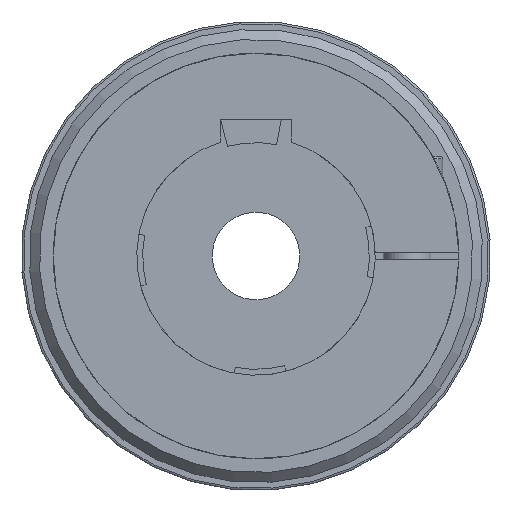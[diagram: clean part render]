
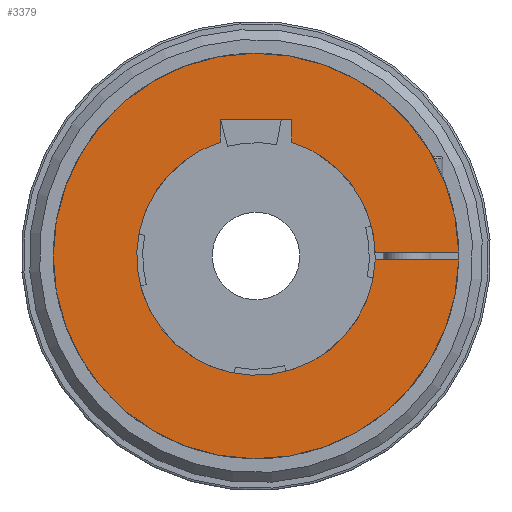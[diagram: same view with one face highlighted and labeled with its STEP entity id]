
A CAD part, left-side view. The second image highlights one B-rep face of the part: STEP entity #3379.
In plain terms, the highlighted planar face has unit normal (-1, 0, 0).
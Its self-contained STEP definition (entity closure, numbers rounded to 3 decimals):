
#189=PLANE('',#3782);
#377=FACE_OUTER_BOUND('',#584,.T.);
#584=EDGE_LOOP('',(#3089,#3090,#3091,#3092,#3093,#3094,#3095,#3096));
#840=LINE('',#5854,#1131);
#843=LINE('',#5860,#1134);
#846=LINE('',#5864,#1137);
#870=LINE('',#5956,#1161);
#871=LINE('',#5958,#1162);
#1131=VECTOR('',#4660,1.);
#1134=VECTOR('',#4665,1.);
#1137=VECTOR('',#4670,1.);
#1161=VECTOR('',#4782,1000.);
#1162=VECTOR('',#4785,1000.);
#1329=CIRCLE('',#3715,51.);
#1339=CIRCLE('',#3726,30.);
#1349=CIRCLE('',#3740,30.);
#1621=VERTEX_POINT('',#5690);
#1622=VERTEX_POINT('',#5691);
#1645=VERTEX_POINT('',#5815);
#1646=VERTEX_POINT('',#5816);
#1663=VERTEX_POINT('',#5851);
#1664=VERTEX_POINT('',#5853);
#1666=VERTEX_POINT('',#5859);
#1672=VERTEX_POINT('',#5875);
#2071=EDGE_CURVE('',#1621,#1622,#1329,.T.);
#2095=EDGE_CURVE('',#1645,#1646,#1339,.T.);
#2113=EDGE_CURVE('',#1664,#1663,#840,.T.);
#2116=EDGE_CURVE('',#1666,#1664,#843,.T.);
#2119=EDGE_CURVE('',#1646,#1666,#846,.T.);
#2125=EDGE_CURVE('',#1663,#1672,#1349,.T.);
#2166=EDGE_CURVE('',#1645,#1622,#870,.T.);
#2167=EDGE_CURVE('',#1621,#1672,#871,.T.);
#3089=ORIENTED_EDGE('',*,*,#2125,.T.);
#3090=ORIENTED_EDGE('',*,*,#2167,.F.);
#3091=ORIENTED_EDGE('',*,*,#2071,.T.);
#3092=ORIENTED_EDGE('',*,*,#2166,.F.);
#3093=ORIENTED_EDGE('',*,*,#2095,.T.);
#3094=ORIENTED_EDGE('',*,*,#2119,.T.);
#3095=ORIENTED_EDGE('',*,*,#2116,.T.);
#3096=ORIENTED_EDGE('',*,*,#2113,.T.);
#3379=ADVANCED_FACE('',(#377),#189,.F.);
#3715=AXIS2_PLACEMENT_3D('',#5692,#4600,#4601);
#3726=AXIS2_PLACEMENT_3D('',#5817,#4632,#4633);
#3740=AXIS2_PLACEMENT_3D('',#5877,#4680,#4681);
#3782=AXIS2_PLACEMENT_3D('',#5959,#4786,#4787);
#4600=DIRECTION('center_axis',(-1.,0.,0.));
#4601=DIRECTION('ref_axis',(0.,-1.,0.));
#4632=DIRECTION('center_axis',(1.,0.,0.));
#4633=DIRECTION('ref_axis',(0.,0.,1.));
#4660=DIRECTION('',(0.,0.,-1.));
#4665=DIRECTION('',(0.,-1.,0.));
#4670=DIRECTION('',(0.,0.,1.));
#4680=DIRECTION('center_axis',(1.,0.,0.));
#4681=DIRECTION('ref_axis',(0.,0.,1.));
#4782=DIRECTION('',(0.,-1.,0.));
#4785=DIRECTION('',(0.,1.,0.));
#4786=DIRECTION('center_axis',(1.,0.,0.));
#4787=DIRECTION('ref_axis',(0.,0.,-1.));
#5690=CARTESIAN_POINT('',(0.,-50.99,1.));
#5691=CARTESIAN_POINT('',(0.,-50.99,-1.));
#5692=CARTESIAN_POINT('Origin',(0.,0.,0.));
#5815=CARTESIAN_POINT('',(0.,-29.983,-1.));
#5816=CARTESIAN_POINT('',(0.,9.,28.618));
#5817=CARTESIAN_POINT('Origin',(0.,0.,0.));
#5851=CARTESIAN_POINT('',(0.,-9.,28.618));
#5853=CARTESIAN_POINT('',(0.,-9.,34.4));
#5854=CARTESIAN_POINT('',(0.,-9.,34.1));
#5859=CARTESIAN_POINT('',(0.,9.,34.4));
#5860=CARTESIAN_POINT('',(0.,0.,34.4));
#5864=CARTESIAN_POINT('',(0.,9.,34.1));
#5875=CARTESIAN_POINT('',(0.,-29.983,1.));
#5877=CARTESIAN_POINT('Origin',(0.,0.,0.));
#5956=CARTESIAN_POINT('',(0.,-6.966,-1.));
#5958=CARTESIAN_POINT('',(0.,-6.966,1.));
#5959=CARTESIAN_POINT('Origin',(0.,0.,51.));
